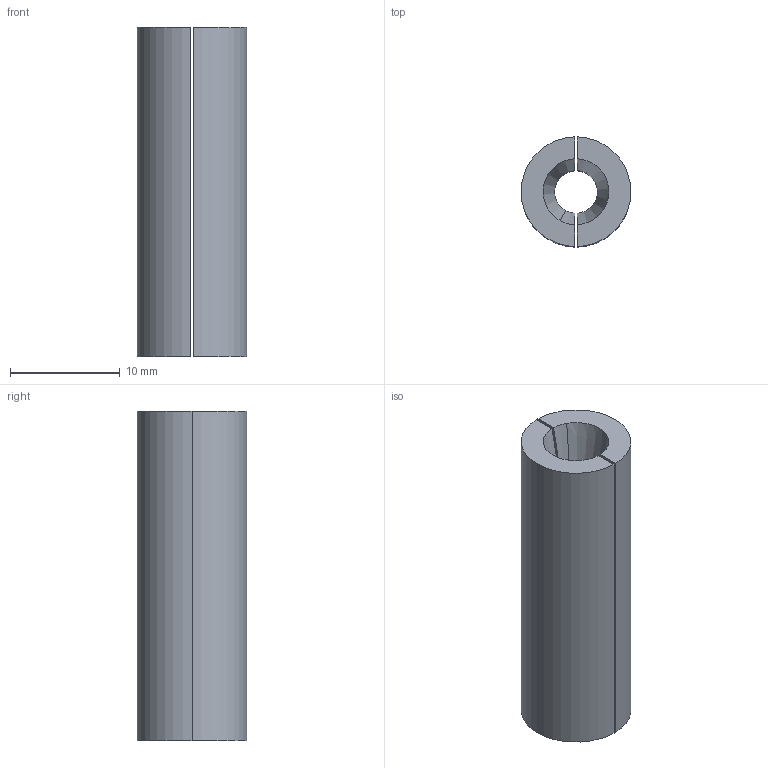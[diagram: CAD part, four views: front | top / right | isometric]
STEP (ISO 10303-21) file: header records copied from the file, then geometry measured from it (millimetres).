
FILE_DESCRIPTION(('CATIA V5 STEP Exchange'),'2;1');
FILE_NAME('D:\姚明阳\1、工装图纸\CGQJT.stp','2025-05-29T08:01:59+00:00',('none'),('none'),'CATIA Version 5 Release 21 GA (IN-10)','CATIA V5 STEP AP214','none');
FILE_SCHEMA(('AUTOMOTIVE_DESIGN { 1 0 10303 214 1 1 1 1 }'));
Length unit declared in the file: millimetre
Products named in the file (1): Part1
Bounding box: 10 x 10 x 30 mm (x, y, z)
Volume: 1922.5 mm3; surface area: 1774.9 mm2
Topology: 2 solids, 2 shells, 20 faces, 48 edges, 32 vertices
Faces by surface type: plane 8, cylinder 8, cone 4
Entity records: 542 total; most frequent: CARTESIAN_POINT 104, ORIENTED_EDGE 96, DIRECTION 58, EDGE_CURVE 48, VERTEX_POINT 32, AXIS2_PLACEMENT_3D 30, VECTOR 22, CIRCLE 22
